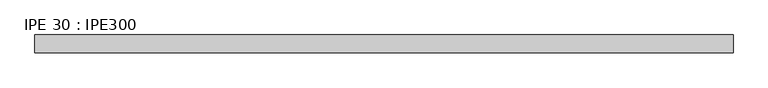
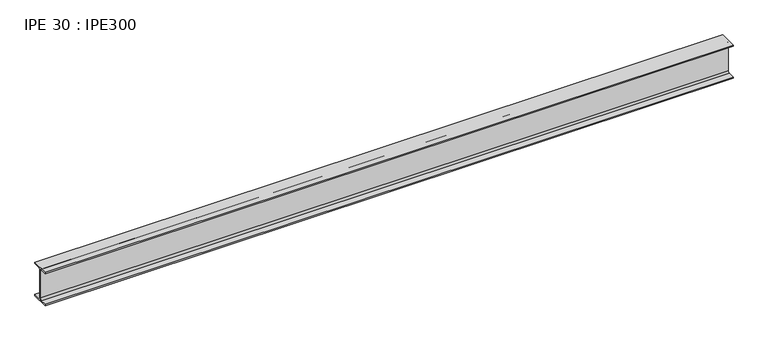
"""IFC4 building model written with IfcOpenShell, lengths in millimetres: beam geometry, IPE 30 : IPE300."""

import ifcopenshell
import ifcopenshell.guid

model = None  # the IFC model being written
_history = None  # IfcOwnerHistory: only IFC2X3 demands one
_inside = {}  # id of a spatial element -> (the spatial element, [elements in it])
_under = {}  # id of a project, library or spatial element -> (it, [spatial elements below it])
_declared = {}  # id of a project -> (the project, [libraries it declares])
_typed = {}  # id of a type object -> (the type object, [elements of that type])
_made_of = {}  # id of a material, layer set ... -> (it, [elements and type objects made of it])


def new_model(schema):
    """Start an empty IFC model of exactly this schema.

    Asked for "IFC4X3", IfcOpenShell would pick the latest addendum, in which some entities
    have other attributes; the version numbers below select the first issue.
    IFC2X3 requires an IfcOwnerHistory on every rooted entity: one is made here for all.
    """
    global model, _history
    if schema == "IFC4X3":
        model = ifcopenshell.file(schema_version=(4, 3, 0, 0))
    else:
        model = ifcopenshell.file(schema=schema)
    _inside.clear()
    _under.clear()
    _declared.clear()
    _typed.clear()
    _made_of.clear()
    _history = None
    if model.schema == "IFC2X3":
        org = make("IfcOrganization", Name="unknown")
        user = make(
            "IfcPersonAndOrganization",
            ThePerson=make("IfcPerson", FamilyName="unknown"),
            TheOrganization=org,
        )
        app = make(
            "IfcApplication",
            ApplicationDeveloper=org,
            Version="unknown",
            ApplicationFullName="unknown",
            ApplicationIdentifier="unknown",
        )
        _history = make(
            "IfcOwnerHistory",
            OwningUser=user,
            OwningApplication=app,
            ChangeAction="ADDED",
            CreationDate=0,
        )
    return model


def make(cls, **values):
    """One entity of the class cls with the attributes given. An attribute that is None is left unset."""
    return model.create_entity(
        cls, **{name: value for name, value in values.items() if value is not None}
    )


def rooted(cls, **values):
    """An entity with a GlobalId (a new one), such as an element, a storey or a relation."""
    return make(cls, GlobalId=ifcopenshell.guid.new(), OwnerHistory=_history, **values)


def si_unit(unit_type, name, prefix=None):
    """IfcSIUnit, for example si_unit("LENGTHUNIT", "METRE", prefix="MILLI")."""
    return make("IfcSIUnit", UnitType=unit_type, Prefix=prefix, Name=name)


def assignment(units):
    """IfcUnitAssignment: the units of a project."""
    return None if units is None else make("IfcUnitAssignment", Units=units)


def point(xyz):
    """IfcCartesianPoint."""
    return None if xyz is None else make("IfcCartesianPoint", Coordinates=xyz)


def direction(xyz):
    """IfcDirection."""
    return None if xyz is None else make("IfcDirection", DirectionRatios=xyz)


def frame(location, z_axis=None, x_axis=None):
    """IfcAxis2Placement3D, a coordinate frame: its origin and axes. An axis left out is left unset."""
    return make(
        "IfcAxis2Placement3D",
        Location=point(location),
        Axis=direction(z_axis),
        RefDirection=direction(x_axis),
    )


def frame_2d(location, x_axis=None):
    """IfcAxis2Placement2D, a coordinate frame in the plane: its origin and x axis."""
    return make(
        "IfcAxis2Placement2D", Location=point(location), RefDirection=direction(x_axis)
    )


def origin():
    """The frame at (0, 0, 0) with its axes left unset."""
    return frame((0.0, 0.0, 0.0))


def place(relative_to, where):
    """IfcLocalPlacement: puts the frame where relative to a parent placement (None: the world)."""
    return make(
        "IfcLocalPlacement", PlacementRelTo=relative_to, RelativePlacement=where
    )


def context(
    kind, dimensions, precision=None, world=None, true_north=None, identifier=None
):
    """IfcGeometricRepresentationContext, for example the 3D "Model" context."""
    return make(
        "IfcGeometricRepresentationContext",
        ContextIdentifier=identifier,
        ContextType=kind,
        CoordinateSpaceDimension=dimensions,
        Precision=precision,
        WorldCoordinateSystem=world,
        TrueNorth=true_north,
    )


def project(units=None, contexts=None):
    """IfcProject with its units and contexts."""
    return rooted(
        "IfcProject",
        Name="project",
        RepresentationContexts=contexts,
        UnitsInContext=assignment(units),
    )


def spatial(cls, under=None, at=None, **own):
    """A site, building, storey or space (cls), placed at a placement, below another one or the project."""
    s = rooted(cls, ObjectPlacement=at, **own)
    if under is not None:
        _under.setdefault(under.id(), (under, []))[1].append(s)
    return s


def polyline(points):
    """IfcPolyline through the points."""
    return make("IfcPolyline", Points=[point(p) for p in points])


def circle_curve(where, radius):
    """IfcCircle in the frame where."""
    return make("IfcCircle", Position=where, Radius=radius)


def trimmed(basis, trim1, trim2, sense, master):
    """IfcTrimmedCurve: the piece of a basis curve between two trims."""
    return make(
        "IfcTrimmedCurve",
        BasisCurve=basis,
        Trim1=trim1,
        Trim2=trim2,
        SenseAgreement=sense,
        MasterRepresentation=master,
    )


def segment(curve, same_sense, transition):
    """IfcCompositeCurveSegment."""
    return make(
        "IfcCompositeCurveSegment",
        Transition=transition,
        SameSense=same_sense,
        ParentCurve=curve,
    )


def composite_curve(segments, self_intersect=None):
    """IfcCompositeCurve: segments joined end to end."""
    return make("IfcCompositeCurve", Segments=segments, SelfIntersect=self_intersect)


def outline(outer, holes=None, kind="AREA"):
    """IfcArbitraryClosedProfileDef: a profile drawn as a closed curve; with holes, ...WithVoids."""
    if holes is None:
        return make("IfcArbitraryClosedProfileDef", ProfileType=kind, OuterCurve=outer)
    return make(
        "IfcArbitraryProfileDefWithVoids",
        ProfileType=kind,
        OuterCurve=outer,
        InnerCurves=holes,
    )


def extrude(swept, where, along, depth):
    """IfcExtrudedAreaSolid: the profile swept, set in the frame where, extruded along a direction by depth."""
    return make(
        "IfcExtrudedAreaSolid",
        SweptArea=swept,
        Position=where,
        ExtrudedDirection=direction(along),
        Depth=depth,
    )


def shape(context_of_items, identifier, shape_type, items):
    """IfcShapeRepresentation: the items that make up one representation, for example the "Body"."""
    return make(
        "IfcShapeRepresentation",
        ContextOfItems=context_of_items,
        RepresentationIdentifier=identifier,
        RepresentationType=shape_type,
        Items=items,
    )


def source(mapping_origin, context_of_items, identifier, shape_type, items):
    """IfcRepresentationMap: a shape defined once, which mapped items show again and again."""
    return make(
        "IfcRepresentationMap",
        MappingOrigin=mapping_origin,
        MappedRepresentation=shape(context_of_items, identifier, shape_type, items),
    )


def transform(
    local_origin,
    x_axis=None,
    y_axis=None,
    z_axis=None,
    scale=None,
    scale2=None,
    scale3=None,
    uniform=True,
):
    """IfcCartesianTransformationOperator3D, or its non-uniform kind. x_axis, y_axis, z_axis: its Axis1, 2, 3."""
    if uniform:
        return make(
            "IfcCartesianTransformationOperator3D",
            Axis1=direction(x_axis),
            Axis2=direction(y_axis),
            LocalOrigin=point(local_origin),
            Scale=scale,
            Axis3=direction(z_axis),
        )
    return make(
        "IfcCartesianTransformationOperator3DnonUniform",
        Axis1=direction(x_axis),
        Axis2=direction(y_axis),
        LocalOrigin=point(local_origin),
        Scale=scale,
        Axis3=direction(z_axis),
        Scale2=scale2,
        Scale3=scale3,
    )


def mapped(mapping_source, mapping_target):
    """IfcMappedItem: shows the shape of a source again, moved by a transform."""
    return make(
        "IfcMappedItem", MappingSource=mapping_source, MappingTarget=mapping_target
    )


def made_of(thing, what):
    """Note that an element or type object is made of a material, layer set ...; save() writes the relation."""
    if what is not None:
        _made_of.setdefault(what.id(), (what, []))[1].append(thing)
    return thing


def element(
    cls,
    number,
    at=None,
    inside=None,
    cuts=None,
    type_object=None,
    material=None,
    context=None,
    identifier="Body",
    shape_type=None,
    held_by="IfcProductDefinitionShape",
    body=None,
    shapes=None,
    **own,
):
    """One element of the class cls, such as IfcWall. Its Tag is "e" and its number.

    at: its placement. inside: the storey or other place that contains it. cuts: it is an
    opening in that element (IfcRelVoidsElement). A single representation is given by context,
    identifier, shape_type and body (its items); several are given by shapes. held_by: the class
    of the entity that holds the representations. save() writes the other relations.
    """
    e = rooted(cls, Tag="e%d" % number, ObjectPlacement=at, **own)
    if body is not None:
        shapes = [shape(context, identifier, shape_type, body)]
    if shapes is not None:
        e.Representation = make(held_by, Representations=shapes)
    if inside is not None:
        _inside.setdefault(inside.id(), (inside, []))[1].append(e)
    if cuts is not None:
        rooted(
            "IfcRelVoidsElement", RelatingBuildingElement=cuts, RelatedOpeningElement=e
        )
    if type_object is not None:
        _typed.setdefault(type_object.id(), (type_object, []))[1].append(e)
    return made_of(e, material)


def aggregate(whole, parts):
    """IfcRelAggregates: a whole, such as a stair, and the parts it consists of."""
    return rooted("IfcRelAggregates", RelatingObject=whole, RelatedObjects=parts)


def save(model, path):
    """Write the relations noted so far, then the file.

    IfcRelAggregates (storeys below a building ...), IfcRelContainedInSpatialStructure (elements
    in a storey), IfcRelDefinesByType, IfcRelAssociatesMaterial and IfcRelDeclares: one each for
    every whole, place, type object, material and project.
    """
    for whole, parts in _under.values():
        aggregate(whole, parts)
    for where, things in _inside.values():
        rooted(
            "IfcRelContainedInSpatialStructure",
            RelatedElements=things,
            RelatingStructure=where,
        )
    for kind, things in _typed.values():
        rooted("IfcRelDefinesByType", RelatedObjects=things, RelatingType=kind)
    for what, things in _made_of.values():
        rooted("IfcRelAssociatesMaterial", RelatedObjects=things, RelatingMaterial=what)
    for by, libraries in _declared.values():
        rooted("IfcRelDeclares", RelatingContext=by, RelatedDefinitions=libraries)
    model.write(path)


def ipe_30_ipe300_86e01c92(model_context):
    return source(origin(), model_context, "Body", "SweptSolid", [
        extrude(outline(composite_curve([segment(polyline([(75.0, -139.3), (75.0, -150.0), (-75.0, -150.0), (-75.0, -139.3), (-18.55, -139.3)]), True, "CONTINUOUS"), segment(trimmed(circle_curve(frame_2d((-18.55, -124.3)), 15.0), [point((-18.55, -139.3))], [point((-3.55, -124.3))], True, "CARTESIAN"), True, "CONTINUOUS"), segment(polyline([(-3.55, -124.3), (-3.55, 124.3)]), True, "CONTINUOUS"), segment(trimmed(circle_curve(frame_2d((-18.55, 124.3)), 15.0), [point((-3.55, 124.3))], [point((-18.55, 139.3))], True, "CARTESIAN"), True, "CONTINUOUS"), segment(polyline([(-18.55, 139.3), (-75.0, 139.3), (-75.0, 150.0), (75.0, 150.0), (75.0, 139.3), (18.55, 139.3)]), True, "CONTINUOUS"), segment(trimmed(circle_curve(frame_2d((18.55, 124.3)), 15.0), [point((18.55, 139.3))], [point((3.55, 124.3))], True, "CARTESIAN"), True, "CONTINUOUS"), segment(polyline([(3.55, 124.3), (3.55, -124.3)]), True, "CONTINUOUS"), segment(trimmed(circle_curve(frame_2d((18.55, -124.3)), 15.0), [point((3.55, -124.3))], [point((18.55, -139.3))], True, "CARTESIAN"), True, "CONTINUOUS"), segment(polyline([(18.55, -139.3), (75.0, -139.3)]), True, "CONTINUOUS")], self_intersect=False)), frame((-2930.0, 0.0, 0.0), z_axis=(1.0, 0.0, 0.0), x_axis=(0.0, 1.0, 0.0)), (0.0, 0.0, 1.0), 5860.0),
    ])


if __name__ == "__main__":
    model = new_model("IFC4")
    model_context = context("Model", 3, world=origin())
    ifc_project = project(units=[si_unit("LENGTHUNIT", "METRE", prefix="MILLI")], contexts=[model_context])
    site = spatial("IfcSite", under=ifc_project)
    building = spatial("IfcBuilding", under=site)
    placement = place(None, origin())
    ipe_30_ipe300_shape = ipe_30_ipe300_86e01c92(model_context)
    element("IfcBeam", 1, ObjectType="IPE 30 : IPE300", at=placement, inside=building, context=model_context, shape_type="MappedRepresentation", body=[
        mapped(ipe_30_ipe300_shape, transform((0.0, 0.0, 0.0), x_axis=(1.0, 0.0, 0.0), y_axis=(0.0, 1.0, 0.0), z_axis=(0.0, 0.0, 1.0))),
    ])
    save(model, "model.ifc")
